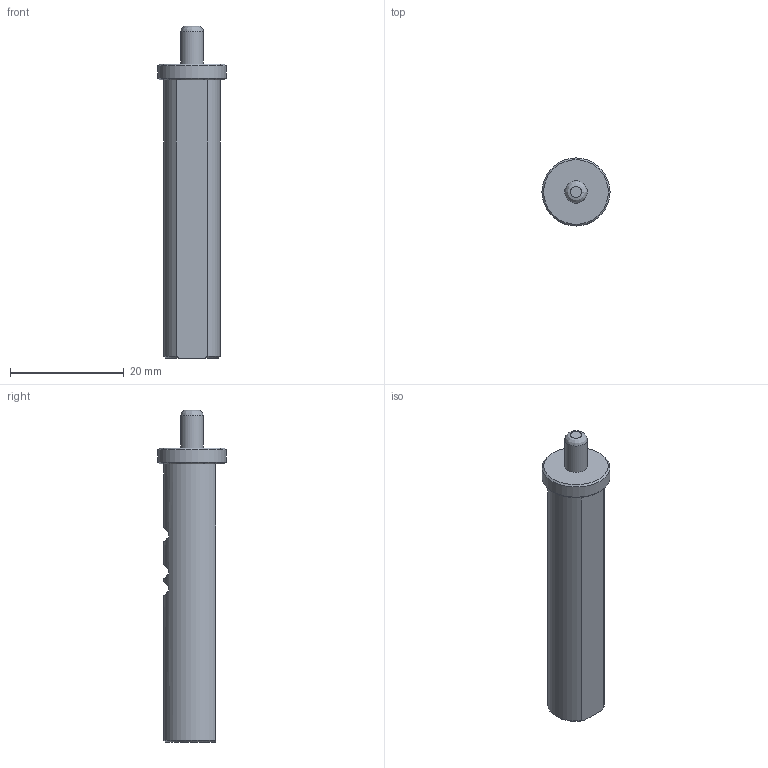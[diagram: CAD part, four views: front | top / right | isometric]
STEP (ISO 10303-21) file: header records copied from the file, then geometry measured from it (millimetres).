
FILE_DESCRIPTION(/* description */ (''),/* implementation_level */ '2;1');
FILE_NAME(/* name */ 'GETOUT_STAVE_73.stp',/* time_stamp */ '2018-10-12T17:38:01+02:00',/* author */ (''),/* organization */ (''),/* preprocessor_version */ 'ST-DEVELOPER v16.7',/* originating_system */ 'SIEMENS PLM Software NX 12.0',/* authorisation */ '');
FILE_SCHEMA (('AP203_CONFIGURATION_CONTROLLED_3D_DESIGN_OF_MECHANICAL_PARTS_AND_ASSEMBLIES_MIM_LF { 1 0 10303 403 2 1 2}'));
Length unit declared in the file: millimetre
Products named in the file (1): turc1934B35Eh6dx
Bounding box: 12 x 12 x 58.5 mm (x, y, z)
Volume: 3945.2 mm3; surface area: 2066.7 mm2
Topology: 1 solids, 1 shells, 24 faces, 50 edges, 33 vertices
Faces by surface type: plane 14, cone 5, cylinder 4, bspline 1
Full cylindrical faces by diameter (mm): 3.3 x1, 4 x1, 12 x1
Entity records: 713 total; most frequent: CARTESIAN_POINT 126, DIRECTION 106, ORIENTED_EDGE 74, AXIS2_PLACEMENT_3D 45, EDGE_LOOP 37, EDGE_CURVE 37, VERTEX_POINT 29, FACE_BOUND 26
